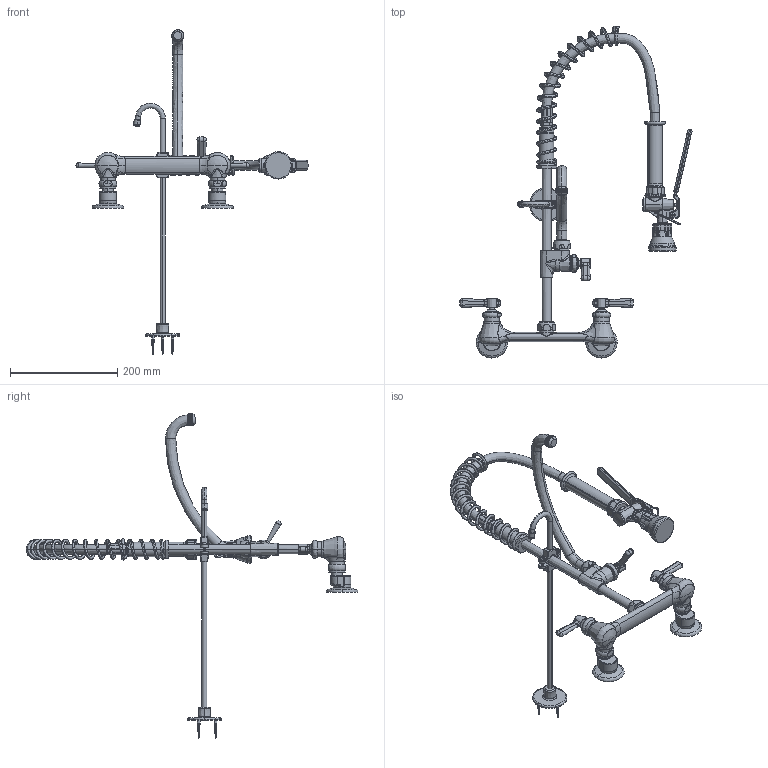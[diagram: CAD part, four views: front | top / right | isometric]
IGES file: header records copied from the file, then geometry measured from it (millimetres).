
Start section:  PTC IGES file: 523-613-369abcp_REV032321.igs
Global section: file name: 523-613-369abcp_REV032321.igs; native system: Creo Parametric by PTC Inc.; preprocessor: 2019010; author: dmisv; organization: Unknown; date: 20210323.142025; units: inch
Bounding box: 432.02 x 617.94 x 604.26 mm (x, y, z)
Surface area: 278615.8 mm2 (no closed solid volume)
Topology: 0 solids, 0 shells, 1589 faces, 12335 edges, 16492 vertices
Faces by surface type: revolution 850, bspline 739
